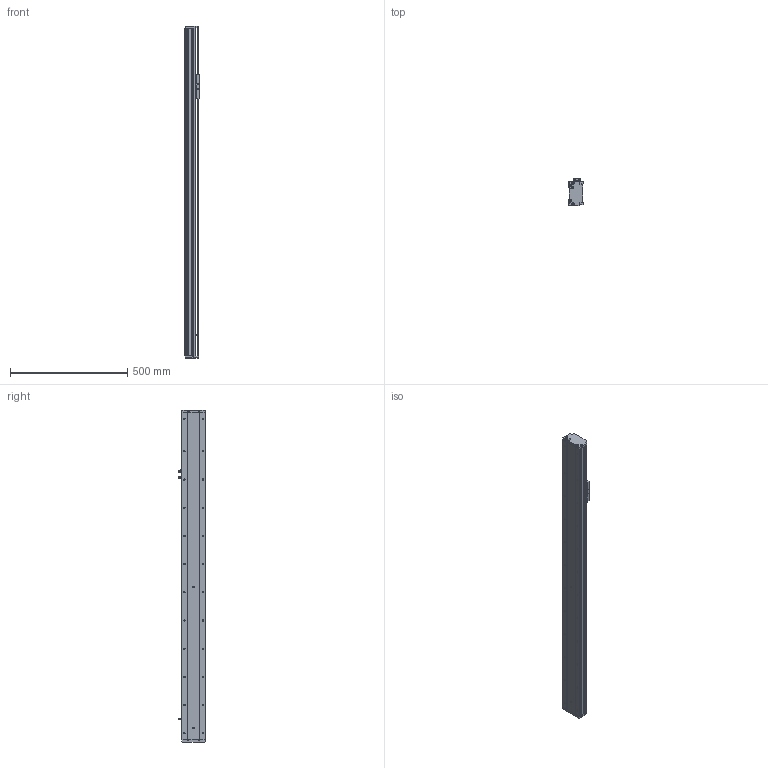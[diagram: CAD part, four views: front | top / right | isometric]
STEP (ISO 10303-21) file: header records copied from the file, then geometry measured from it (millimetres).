
FILE_DESCRIPTION (( 'STEP AP214' ), '1' );
FILE_NAME ('KSD100S-S1050-M-CM.STEP', '2019-08-30T01:27:48', ( '微软用户' ), ( '微软中国' ), 'SwSTEP 2.0', 'SolidWorks 2014', '' );
FILE_SCHEMA (( 'AUTOMOTIVE_DESIGN' ));
Length unit declared in the file: millimetre
Products named in the file (8): 100遵傷啣; 100宽底板半封闭丝杆1050行程电机内装; KSD100S-S1050-M-CM; 覜茼え100遵圉猾敕; U倰嫖萇EEㄜSX672; 100宽防尘板丝杆1050行程电机内装; 100宽马达安装板-电机内装; 100宽滚珠螺姆安装板半封闭
Assembly tree (9 placements, depth 2):
  KSD100S-S1050-M-CM
    100宽底板半封闭丝杆1050行程电机内装
    100遵傷啣
    100宽滚珠螺姆安装板半封闭
    100宽马达安装板-电机内装
    100宽防尘板丝杆1050行程电机内装
    U倰嫖萇EEㄜSX672  x3
    覜茼え100遵圉猾敕
Bounding box: 60 x 113.7 x 1413 mm (x, y, z)
Volume: 2649991.6 mm3; surface area: 963028.8 mm2
Topology: 9 solids, 9 shells, 1191 faces, 3410 edges, 2133 vertices
Faces by surface type: cylinder 578, plane 460, cone 153
Entity records: 42596 total; most frequent: CARTESIAN_POINT 9306, DIRECTION 5495, ORIENTED_EDGE 5416, EDGE_CURVE 2708, AXIS2_PLACEMENT_3D 1990, VERTEX_POINT 1757, VECTOR 1515, LINE 1515
